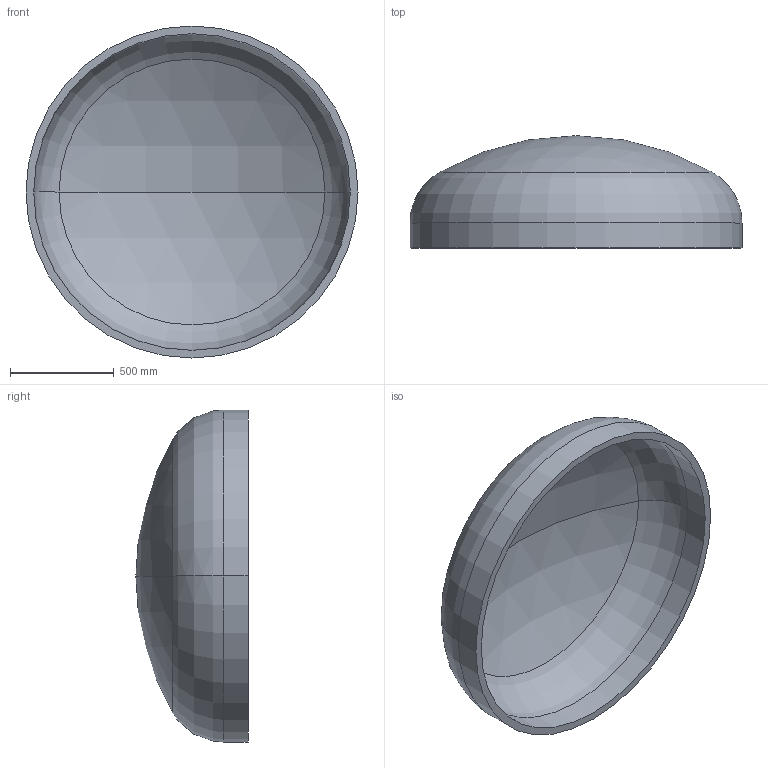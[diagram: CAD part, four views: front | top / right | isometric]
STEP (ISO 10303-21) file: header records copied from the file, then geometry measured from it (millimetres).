
FILE_DESCRIPTION (( 'STEP AP203' ), '1' );
FILE_NAME ('DIN 28013 Korbbogenform_-_Boden DIN 28013 - 1600 x 120 - I - s=37.step', '2016-07-01T11:14:32', ( '' ), ( '' ), 'SwSTEP 2.0', 'SolidWorks 2013', '' );
FILE_SCHEMA (( 'CONFIG_CONTROL_DESIGN' ));
Length unit declared in the file: millimetre
Products named in the file (1): DIN 28013 Korbbogenform_-_Boden DIN 28013 - 1600 x 120 - I - s=37
Bounding box: 1600 x 540.95 x 1600 mm (x, y, z)
Volume: 121639161.7 mm3; surface area: 6759636.5 mm2
Topology: 1 solids, 1 shells, 13 faces, 24 edges, 14 vertices
Faces by surface type: torus 4, cylinder 4, sphere 4, plane 1
Entity records: 407 total; most frequent: DIRECTION 72, CARTESIAN_POINT 52, ORIENTED_EDGE 48, AXIS2_PLACEMENT_3D 34, EDGE_CURVE 24, CIRCLE 20, EDGE_LOOP 14, VERTEX_POINT 14
